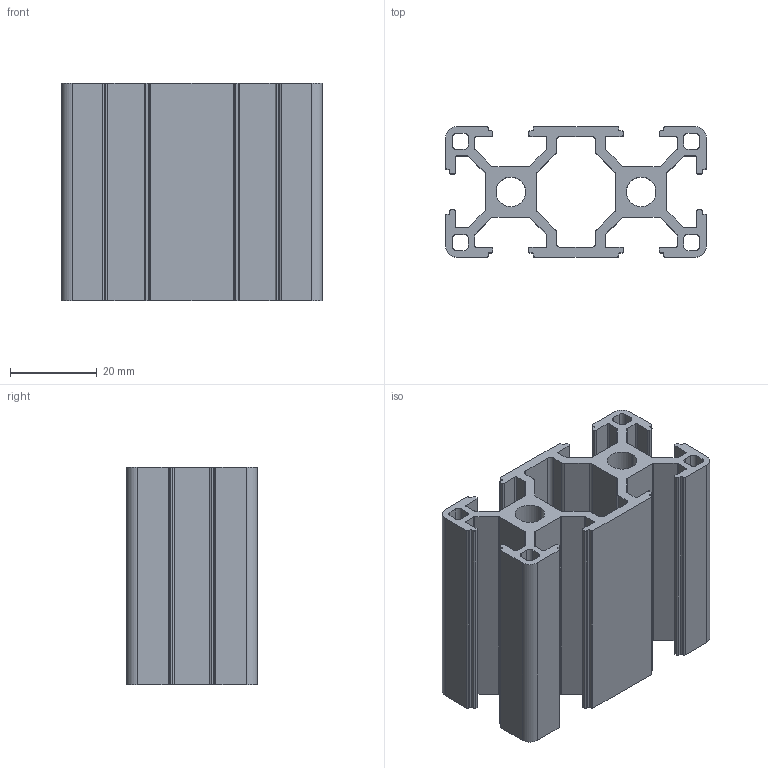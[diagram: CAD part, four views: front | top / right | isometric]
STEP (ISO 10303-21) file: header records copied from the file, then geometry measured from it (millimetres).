
FILE_DESCRIPTION (( 'STEP AP203' ), '1' );
FILE_NAME ('RTR-8-3060.STEP', '2018-12-14T06:29:44', ( 'user' ), ( '' ), 'SwSTEP 2.0', 'SolidWorks 2019', '' );
FILE_SCHEMA (( 'CONFIG_CONTROL_DESIGN' ));
Length unit declared in the file: millimetre
Products named in the file (1): RTR-8-3060
Bounding box: 60 x 30 x 50 mm (x, y, z)
Volume: 29826.9 mm3; surface area: 27213.9 mm2
Topology: 1 solids, 1 shells, 238 faces, 708 edges, 472 vertices
Faces by surface type: cylinder 120, plane 118
Entity records: 8157 total; most frequent: DIRECTION 1426, CARTESIAN_POINT 1419, ORIENTED_EDGE 1416, EDGE_CURVE 708, AXIS2_PLACEMENT_3D 479, VERTEX_POINT 472, VECTOR 468, LINE 468
